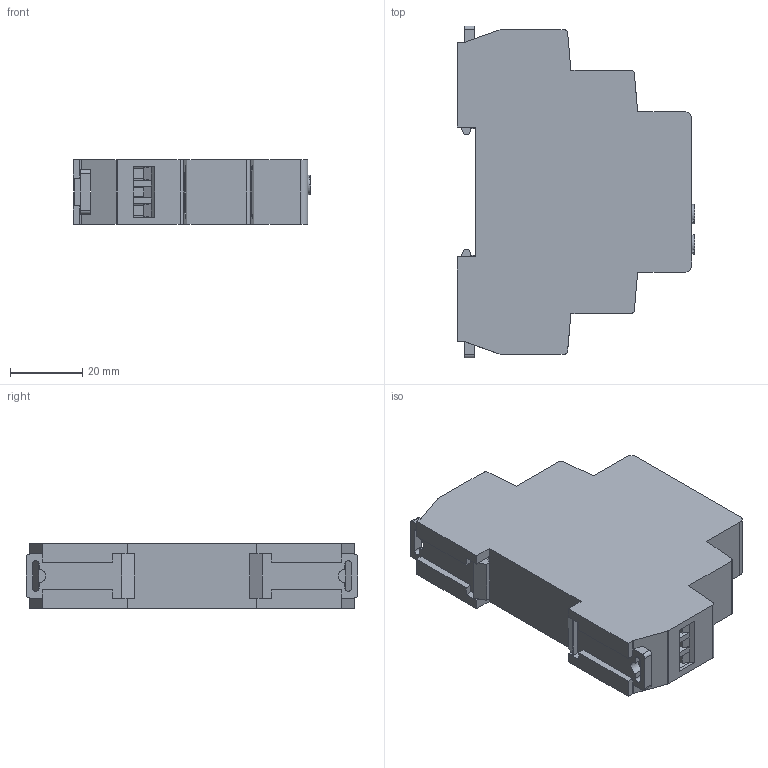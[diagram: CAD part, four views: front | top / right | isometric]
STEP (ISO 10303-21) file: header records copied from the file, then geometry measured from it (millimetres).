
FILE_DESCRIPTION (( 'STEP AP203' ), '1' );
FILE_NAME ('Ðåëå êîíòðîëÿ ôàç RF-3ZC.STEP', '2021-11-25T20:43:03', ( '' ), ( '' ), 'SwSTEP 2.0', 'SolidWorks 2017', '' );
FILE_SCHEMA (( 'CONFIG_CONTROL_DESIGN' ));
Length unit declared in the file: millimetre
Products named in the file (1): Ðåëå êîíòðîëÿ ôàç RF-3ZC
Bounding box: 65.8 x 92 x 18 mm (x, y, z)
Volume: 79547.7 mm3; surface area: 18460.5 mm2
Topology: 13 solids, 13 shells, 447 faces, 1165 edges, 764 vertices
Faces by surface type: plane 319, cylinder 114, torus 12, sphere 2
Entity records: 13670 total; most frequent: CARTESIAN_POINT 2401, ORIENTED_EDGE 2322, DIRECTION 2293, EDGE_CURVE 1161, VECTOR 905, LINE 905, VERTEX_POINT 762, AXIS2_PLACEMENT_3D 694
